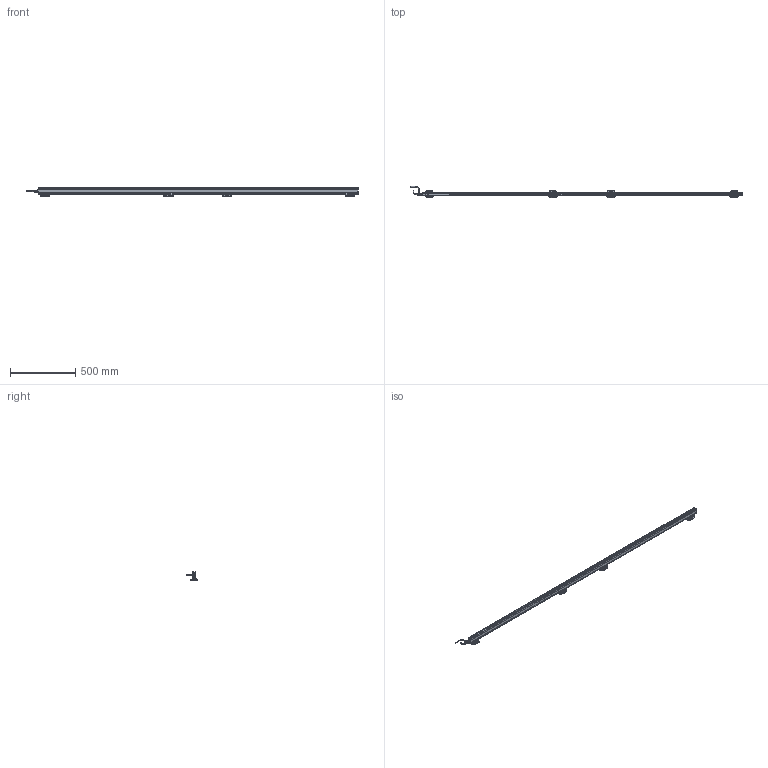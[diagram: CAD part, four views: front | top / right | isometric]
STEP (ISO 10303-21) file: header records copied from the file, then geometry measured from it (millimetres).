
FILE_DESCRIPTION(('Bauteilbeschreibung','HiCAD-Model','HiCAD-STEP-TRANSLATION','Bauteilbeschreibung'),'2;1');
FILE_NAME('PERFORMAXIQEASY_2370-2460_3D.STP','2014-03-05T12:52:45+00:00',('Konstrukteur'),('Konstrukteur Firma GmbH'),' HiCAD 2011, Step 1600.0 ','HiCAD 2011','confidential');
FILE_SCHEMA(('AUTOMOTIVE_DESIGN { 1 2 10303 214 0 1 1 1 }'));
Products named in the file (46): PERFORMAXIQEASY_2370_2460_3D; A_PERFORMAX IQ EASY 2370_2460; A_PERFORMAX IQ EASY SPEED; A_CAP DE; A_CAP CE_5; LED_2C_3MM; LED02C03MM; A519020315_CONNECTOR APPLIANCE; A_INSERT; A_CONTACTS; A_HOUSING; A_PROFILE; A_POTTING; PIN; PIN0; A532000100_BRACKET BARS_ MOUNT; A_SIDE PIECE; A0SIDE0PIECE; A_BRACKET SMALL; A_SLIDE PIECE; A5320001000BRACKET0BARS00MOUNT; A0SIDE0PIECE0; A0SIDE0PIECE1; A0BRACKET0SMALL; A0SLIDE0PIECE; A5320001000BRACKET0BARS00MOUNT0; A0SIDE0PIECE2; A0SIDE0PIECE3; A0BRACKET0SMALL0; A0SLIDE0PIECE0; A0SIDE0PIECE4; A0SIDE0PIECE5; A0BRACKET0SMALL1; A0SLIDE0PIECE1; A_CONNECTOR STRAIGHT; EXTRUDED SOLID_0; DRAAD GEBOGEN; REVOLVED SOLID_1; REVOLVED SOLID_3; A_CONNECTOR ANGLED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
Assembly tree (45 placements, depth 5):
  PERFORMAXIQEASY_2370_2460_3D
    A_PERFORMAX IQ EASY 2370_2460
      A_PERFORMAX IQ EASY SPEED
        A_CAP DE
        A_CAP CE_5
        LED_2C_3MM
        LED02C03MM
        A519020315_CONNECTOR APPLIANCE
          A_INSERT
          A_CONTACTS
          A_HOUSING
        A_PROFILE
        A_POTTING
        PIN
        PIN0
      A532000100_BRACKET BARS_ MOUNT
        A_SIDE PIECE
        A0SIDE0PIECE
        A_BRACKET SMALL
        A_SLIDE PIECE
      A5320001000BRACKET0BARS00MOUNT
        A0SIDE0PIECE0
        A0SIDE0PIECE1
        A0BRACKET0SMALL
        A0SLIDE0PIECE
      A5320001000BRACKET0BARS00MOUNT0
        A0SIDE0PIECE2
        A0SIDE0PIECE3
        A0BRACKET0SMALL0
        A0SLIDE0PIECE0
      A5320001000BRACKET0BARS00MOUNT0
        A0SIDE0PIECE4
        A0SIDE0PIECE5
        A0BRACKET0SMALL1
        A0SLIDE0PIECE1
      A_CONNECTOR STRAIGHT
        EXTRUDED SOLID_0
        DRAAD GEBOGEN
        REVOLVED SOLID_1
        REVOLVED SOLID_3
      A_CONNECTOR ANGLED
        REVOLVED0SOLID01
        EXTRUDED0SOLID00
        C_EDGE SWEEP_0
        REVOLVED SOLID_2
        REVOLVED0SOLID03
Bounding box: 2537.89 x 84.28 x 63.13 mm (x, y, z)
Volume: 2541166.2 mm3; surface area: 625250.5 mm2
Topology: 41 solids, 41 shells, 3447 faces, 8839 edges, 5258 vertices
Faces by surface type: cylinder 1457, plane 1315, sphere 222, torus 205, bspline 168, cone 80
Full cylindrical faces by diameter (mm): 0.8 x10, 1 x5, 2.387 x8, 3 x19, 3.1 x1, 4.2 x2, 5 x4, 5.5 x20, 8 x2, 8.2 x1, 8.4 x2, 8.945 x1, 9 x2, 10.2 x1, 10.5 x3, 11 x1, 12 x3, 12.8 x1, 13.8 x4, 14.5 x3
Entity records: 159221 total; most frequent: CARTESIAN_POINT 37152, DIRECTION 17145, ORIENTED_EDGE 16748, EDGE_CURVE 8374, COLOUR_RGB 7959, PRESENTATION_STYLE_ASSIGNMENT 7959, OVER_RIDING_STYLED_ITEM 7923, CURVE_STYLE 7918
